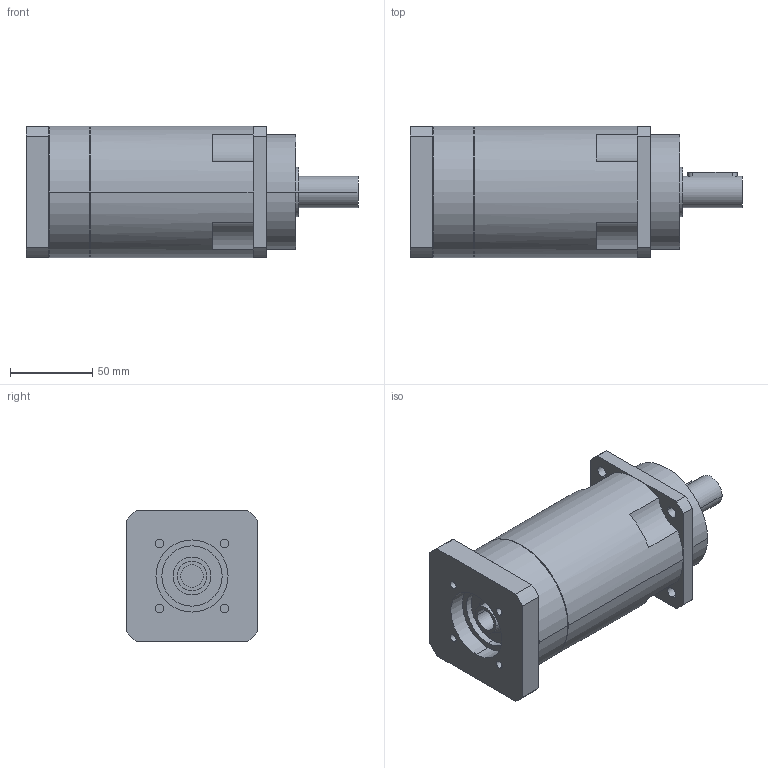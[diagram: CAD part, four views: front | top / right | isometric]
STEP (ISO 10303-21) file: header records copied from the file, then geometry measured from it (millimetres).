
FILE_DESCRIPTION(('CoCreate Modeling STEP Export'),'2;1');
FILE_NAME('GPR100_ig-48-64-80-100-120-144-180-216_19_B5_14_P31.stp','2014-08-26T11:54:53',(''),(''),'CoCreate Modeling STEP processor for AP214 (Solid Model)','CoCreate Modeling 16.00C 25-Feb-2009 (C) Parametric Technology GmbH','');
FILE_SCHEMA(('AUTOMOTIVE_DESIGN { 1 0 10303 214 1 1 1 1 }'));
Length unit declared in the file: millimetre
Products named in the file (2): GPR100_ig-48-64-80-100-120-144-180-216_19_B5_14_P31
Assembly tree (1 placements, depth 2):
  GPR100_ig-48-64-80-100-120-144-180-216_19_B5_14_P31
    GPR100_ig-48-64-80-100-120-144-180-216_19_B5_14_P31
Bounding box: 202.4 x 80 x 80 mm (x, y, z)
Volume: 812576.8 mm3; surface area: 65646.3 mm2
Topology: 1 solids, 1 shells, 93 faces, 246 edges, 168 vertices
Faces by surface type: cylinder 52, plane 35, cone 6
Entity records: 2611 total; most frequent: ORIENTED_EDGE 488, CARTESIAN_POINT 473, DIRECTION 386, EDGE_CURVE 244, VERTEX_POINT 168, AXIS2_PLACEMENT_3D 145, EDGE_LOOP 116, VECTOR 96
